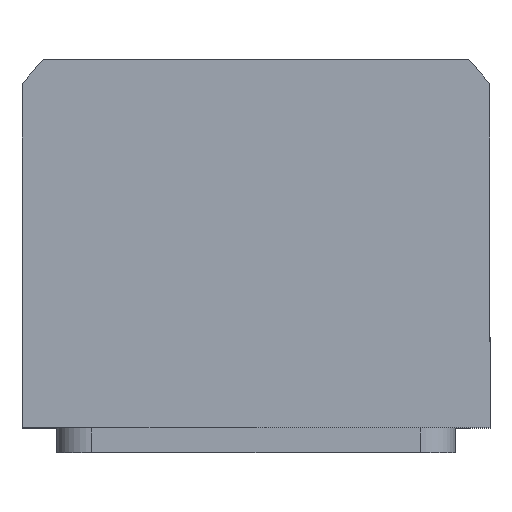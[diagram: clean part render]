
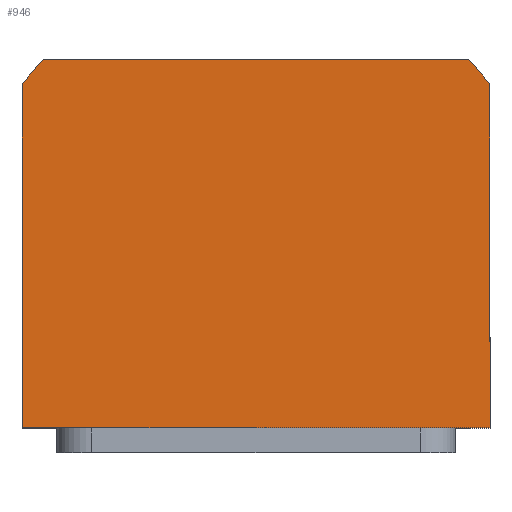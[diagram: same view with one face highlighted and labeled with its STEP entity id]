
A CAD part, top view. The second image highlights one B-rep face of the part: STEP entity #946.
In plain terms, the highlighted planar face has unit normal (0, 0, 1).
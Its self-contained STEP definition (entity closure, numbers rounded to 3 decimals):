
#234 = ORIENTED_EDGE ( 'NONE', *, *, #3039, .T. ) ;
#363 = EDGE_CURVE ( 'NONE', #13971, #8527, #7630, .T. ) ;
#468 = CARTESIAN_POINT ( 'NONE',  ( 47., 34.832, 35. ) ) ;
#844 = AXIS2_PLACEMENT_3D ( 'NONE', #1028, #2323, #11718 ) ;
#851 = CARTESIAN_POINT ( 'NONE',  ( -42.688, 40., 35. ) ) ;
#946 = ADVANCED_FACE ( 'NONE', ( #6152 ), #15098, .T. ) ;
#1028 = CARTESIAN_POINT ( 'NONE',  ( 0., 0., 35. ) ) ;
#1601 = VERTEX_POINT ( 'NONE', #5913 ) ;
#1911 = VECTOR ( 'NONE', #11488, 1000. ) ;
#2211 = AXIS2_PLACEMENT_3D ( 'NONE', #8729, #3014, #7658 ) ;
#2323 = DIRECTION ( 'NONE',  ( 0., 0., 1. ) ) ;
#2746 = VECTOR ( 'NONE', #5791, 1000. ) ;
#3014 = DIRECTION ( 'NONE',  ( 0., 0., 1. ) ) ;
#3039 = EDGE_CURVE ( 'NONE', #11900, #1601, #5022, .T. ) ;
#4120 = DIRECTION ( 'NONE',  ( 1., 0., 0. ) ) ;
#4193 = AXIS2_PLACEMENT_3D ( 'NONE', #14692, #11045, #4120 ) ;
#5005 = CARTESIAN_POINT ( 'NONE',  ( 47., 34.832, 35. ) ) ;
#5022 = LINE ( 'NONE', #13899, #1911 ) ;
#5496 = LINE ( 'NONE', #12789, #2746 ) ;
#5791 = DIRECTION ( 'NONE',  ( 1., 0., 0. ) ) ;
#5913 = CARTESIAN_POINT ( 'NONE',  ( -47., -34., 35. ) ) ;
#6152 = FACE_OUTER_BOUND ( 'NONE', #8353, .T. ) ;
#6302 = VERTEX_POINT ( 'NONE', #12554 ) ;
#6344 = EDGE_CURVE ( 'NONE', #1601, #6302, #5496, .T. ) ;
#6789 = ORIENTED_EDGE ( 'NONE', *, *, #11018, .T. ) ;
#6924 = VECTOR ( 'NONE', #12264, 1000. ) ;
#6998 = CARTESIAN_POINT ( 'NONE',  ( 42.688, 40., 35. ) ) ;
#7439 = ORIENTED_EDGE ( 'NONE', *, *, #11416, .T. ) ;
#7518 = CIRCLE ( 'NONE', #4193, 58.5 ) ;
#7630 = CIRCLE ( 'NONE', #2211, 58.5 ) ;
#7658 = DIRECTION ( 'NONE',  ( 1., 0., 0. ) ) ;
#8272 = LINE ( 'NONE', #851, #11969 ) ;
#8353 = EDGE_LOOP ( 'NONE', ( #13118, #12429, #11066, #6789, #7439, #234 ) ) ;
#8527 = VERTEX_POINT ( 'NONE', #6998 ) ;
#8729 = CARTESIAN_POINT ( 'NONE',  ( 0., 0., 35. ) ) ;
#9537 = VERTEX_POINT ( 'NONE', #13016 ) ;
#10630 = CARTESIAN_POINT ( 'NONE',  ( -47., 34.832, 35. ) ) ;
#11018 = EDGE_CURVE ( 'NONE', #8527, #9537, #8272, .T. ) ;
#11045 = DIRECTION ( 'NONE',  ( 0., 0., 1. ) ) ;
#11066 = ORIENTED_EDGE ( 'NONE', *, *, #363, .T. ) ;
#11416 = EDGE_CURVE ( 'NONE', #9537, #11900, #7518, .T. ) ;
#11488 = DIRECTION ( 'NONE',  ( 0., -1., 0. ) ) ;
#11718 = DIRECTION ( 'NONE',  ( 1., 0., 0. ) ) ;
#11900 = VERTEX_POINT ( 'NONE', #10630 ) ;
#11969 = VECTOR ( 'NONE', #14041, 1000. ) ;
#12264 = DIRECTION ( 'NONE',  ( 0., 1., 0. ) ) ;
#12429 = ORIENTED_EDGE ( 'NONE', *, *, #14108, .T. ) ;
#12554 = CARTESIAN_POINT ( 'NONE',  ( 47., -34., 35. ) ) ;
#12789 = CARTESIAN_POINT ( 'NONE',  ( 47., -34., 35. ) ) ;
#13016 = CARTESIAN_POINT ( 'NONE',  ( -42.688, 40., 35. ) ) ;
#13118 = ORIENTED_EDGE ( 'NONE', *, *, #6344, .T. ) ;
#13899 = CARTESIAN_POINT ( 'NONE',  ( -47., -34., 35. ) ) ;
#13971 = VERTEX_POINT ( 'NONE', #5005 ) ;
#14041 = DIRECTION ( 'NONE',  ( -1., 0., 0. ) ) ;
#14108 = EDGE_CURVE ( 'NONE', #6302, #13971, #14832, .T. ) ;
#14692 = CARTESIAN_POINT ( 'NONE',  ( 0., 0., 35. ) ) ;
#14832 = LINE ( 'NONE', #468, #6924 ) ;
#15098 = PLANE ( 'NONE',  #844 ) ;
